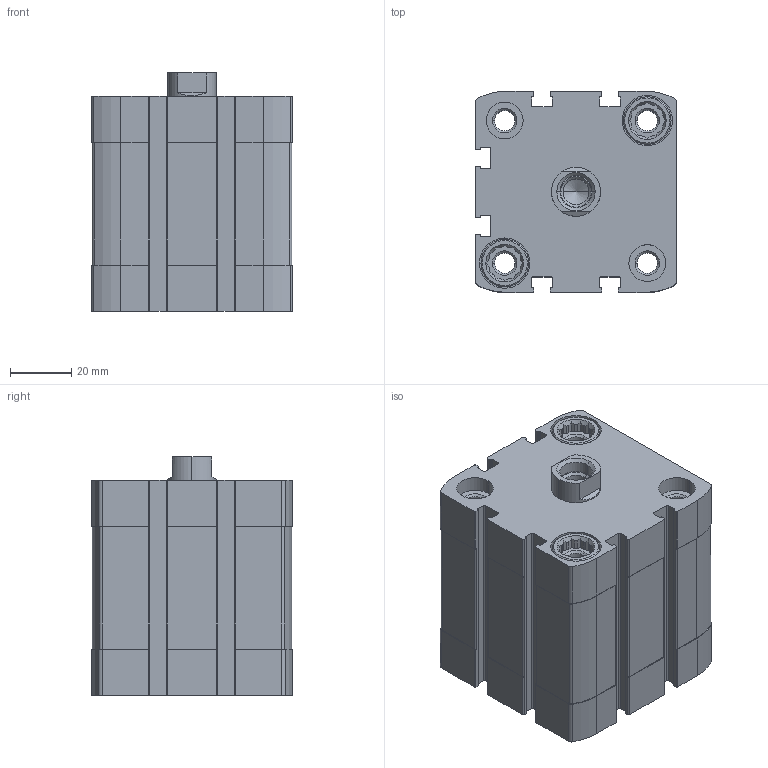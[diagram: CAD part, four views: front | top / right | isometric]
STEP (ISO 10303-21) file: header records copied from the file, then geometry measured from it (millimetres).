
FILE_DESCRIPTION (( 'STEP AP203' ), '1' );
FILE_NAME ('CCN50-25F.STEP', '2017-04-06T12:55:57', ( '' ), ( '' ), 'SwSTEP 2.0', 'SolidWorks 2016', '' );
FILE_SCHEMA (( 'CONFIG_CONTROL_DESIGN' ));
Length unit declared in the file: millimetre
Products named in the file (3): CCN-25---(Z); CCN-25_(KS); CCN50-25F
Assembly tree (2 placements, depth 2):
  CCN50-25F
    CCN-25---(Z)
    CCN-25_(KS)
Bounding box: 65.5 x 65.5 x 77.7 mm (x, y, z)
Volume: 222809.7 mm3; surface area: 60061.1 mm2
Topology: 2 solids, 2 shells, 471 faces, 1270 edges, 833 vertices
Faces by surface type: plane 219, cylinder 210, cone 42
Entity records: 15269 total; most frequent: CARTESIAN_POINT 2871, DIRECTION 2588, ORIENTED_EDGE 2536, EDGE_CURVE 1268, AXIS2_PLACEMENT_3D 942, VERTEX_POINT 833, LINE 704, VECTOR 704
